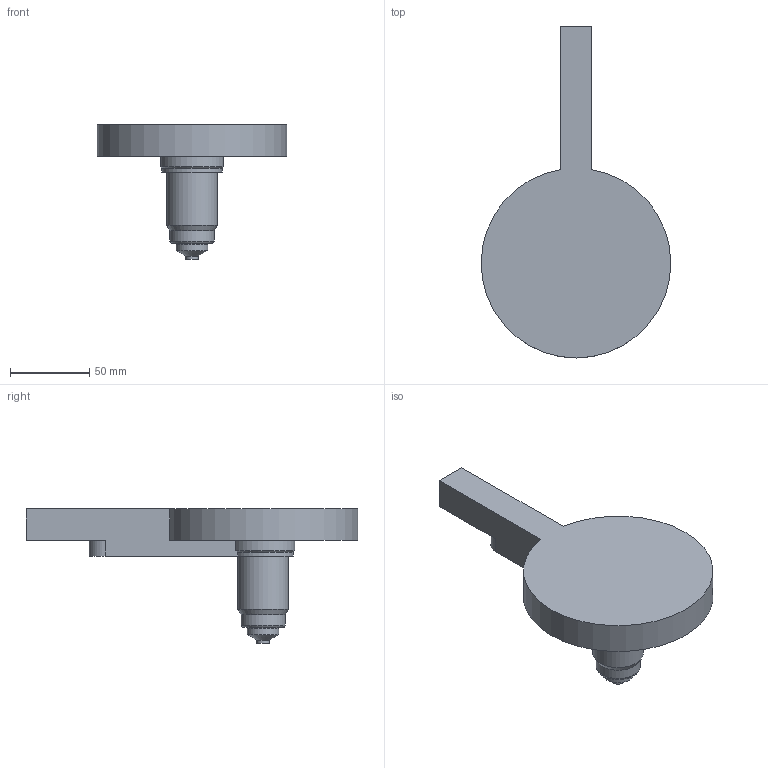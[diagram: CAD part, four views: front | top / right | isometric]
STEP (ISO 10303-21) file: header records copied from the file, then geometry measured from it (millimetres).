
FILE_DESCRIPTION( ( 'STEP AP214' ), '1' );
FILE_NAME( 'S:/PROIECTE_YUDO_2009_dupa_1.07.2009/PROIECTE YUDO 3D 01.07.2009/BIS/YUEU09-BIS18CF080_1/YUEU09-BIS18CF080_cutout.step', '2009-09-29T05:35:15', ( ' ' ), ( ' ' ), 'XStep 1.0', ' ', ' ' );
FILE_SCHEMA( ( 'automotive_design' ) );
Length unit declared in the file: millimetre
Products named in the file (1): 1
Bounding box: 120 x 210 x 85 mm (x, y, z)
Volume: 328715.9 mm3; surface area: 44914.5 mm2
Topology: 1 solids, 1 shells, 22 faces, 49 edges, 31 vertices
Faces by surface type: plane 9, cylinder 8, cone 4, torus 1
Full cylindrical faces by diameter (mm): 8 x1, 20 x1, 28 x1, 32 x1
Entity records: 756 total; most frequent: DIRECTION 102, CARTESIAN_POINT 99, ORIENTED_EDGE 80, AXIS2_PLACEMENT_3D 41, EDGE_CURVE 40, EDGE_LOOP 32, VERTEX_POINT 30, FACE_OUTER_BOUND 27
